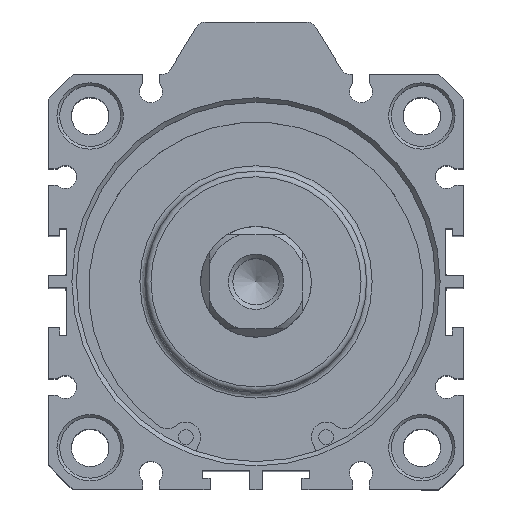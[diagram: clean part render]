
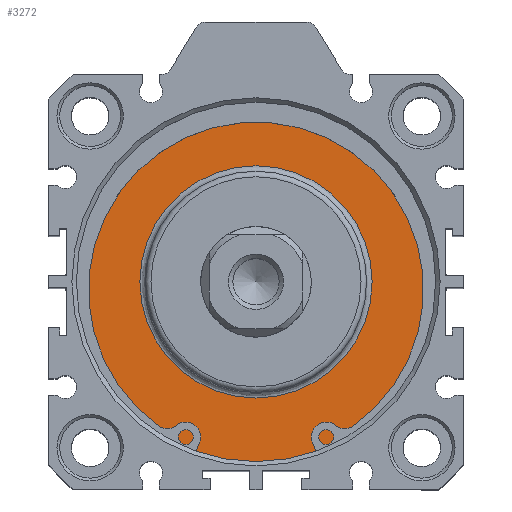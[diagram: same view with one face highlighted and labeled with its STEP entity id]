
A CAD part, top view. The second image highlights one B-rep face of the part: STEP entity #3272.
In plain terms, the highlighted planar face has unit normal (0, 0, 1).
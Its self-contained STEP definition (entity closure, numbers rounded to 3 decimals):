
#3221=CARTESIAN_POINT('',(0.359,19.684,77.3));
#3222=VERTEX_POINT('',#3221);
#3223=CARTESIAN_POINT('',(0.359,-1.316,77.3));
#3224=DIRECTION('',(0.0,0.0,1.0));
#3225=DIRECTION('',(0.0,-1.0,0.0));
#3226=AXIS2_PLACEMENT_3D('',#3223,#3224,#3225);
#3227=CIRCLE('',#3226,21.0);
#3228=EDGE_CURVE('',#3222,#3222,#3227,.T.);
#3253=CARTESIAN_POINT('',(0.359,24.934,77.3));
#3254=DIRECTION('',(0.0,0.0,1.0));
#3255=DIRECTION('',(1.0,0.0,0.0));
#3256=AXIS2_PLACEMENT_3D('',#3253,#3254,#3255);
#3257=PLANE('',#3256);
#3258=CARTESIAN_POINT('',(0.359,31.184,77.3));
#3259=VERTEX_POINT('',#3258);
#3260=CARTESIAN_POINT('',(0.359,-1.316,77.3));
#3261=DIRECTION('',(0.0,0.0,-1.0));
#3262=DIRECTION('',(0.0,1.0,0.0));
#3263=AXIS2_PLACEMENT_3D('',#3260,#3261,#3262);
#3264=CIRCLE('',#3263,32.5);
#3265=EDGE_CURVE('',#3259,#3259,#3264,.T.);
#3266=ORIENTED_EDGE('',*,*,#3265,.F.);
#3267=EDGE_LOOP('',(#3266));
#3268=FACE_OUTER_BOUND('',#3267,.T.);
#3269=ORIENTED_EDGE('',*,*,#3228,.F.);
#3270=EDGE_LOOP('',(#3269));
#3271=FACE_BOUND('',#3270,.T.);
#3272=ADVANCED_FACE('',(#3268,#3271),#3257,.T.);
